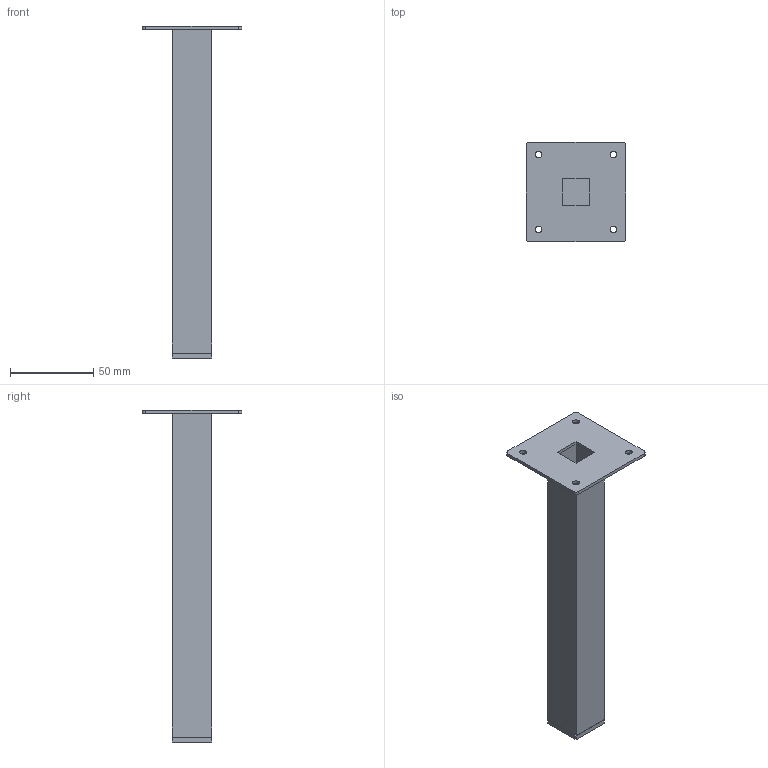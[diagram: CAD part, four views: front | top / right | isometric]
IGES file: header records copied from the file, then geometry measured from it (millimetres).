
Start section: Data from Parasolid IGES Translator 15.0.47, Copyright(c) 2006 Siemens P LM Software. All Rights Reserved.
Global section: file name: 45808.igs; native system:  By UGS Corp.; preprocessor: XPlus GENERIC/IGES 3.0; author: Noname; organization: Noname; date: 20140121.135917; units: millimetre
Bounding box: 60 x 60 x 200 mm (x, y, z)
Surface area: 44598.9 mm2 (no closed solid volume)
Topology: 0 solids, 0 shells, 39 faces, 192 edges, 184 vertices
Faces by surface type: extrusion 31, revolution 8
